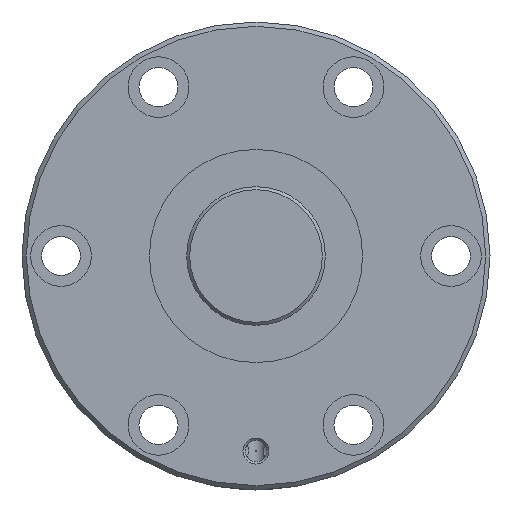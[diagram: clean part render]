
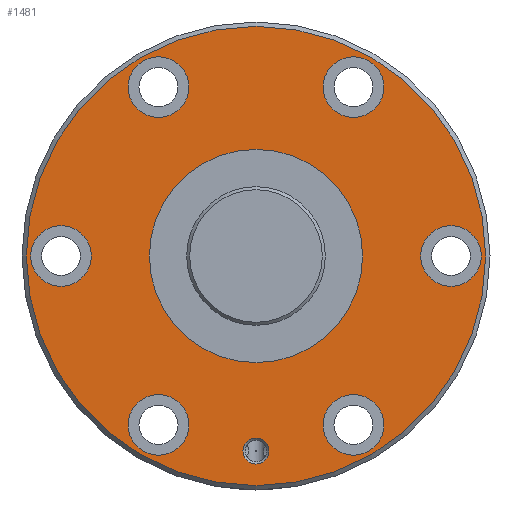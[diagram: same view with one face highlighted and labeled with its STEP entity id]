
A CAD part, left-side view. The second image highlights one B-rep face of the part: STEP entity #1481.
In plain terms, the highlighted planar face has unit normal (-1, 0, 0).
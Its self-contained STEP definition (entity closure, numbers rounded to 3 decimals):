
#336=ORIENTED_EDGE('',*,*,#707,.T.);
#337=ORIENTED_EDGE('',*,*,#708,.T.);
#338=ORIENTED_EDGE('',*,*,#709,.T.);
#339=ORIENTED_EDGE('',*,*,#710,.T.);
#340=ORIENTED_EDGE('',*,*,#711,.T.);
#341=ORIENTED_EDGE('',*,*,#712,.T.);
#342=ORIENTED_EDGE('',*,*,#713,.T.);
#343=ORIENTED_EDGE('',*,*,#714,.T.);
#344=ORIENTED_EDGE('',*,*,#706,.F.);
#706=EDGE_CURVE('',#891,#891,#976,.T.);
#707=EDGE_CURVE('',#892,#892,#977,.T.);
#708=EDGE_CURVE('',#893,#893,#978,.F.);
#709=EDGE_CURVE('',#894,#894,#979,.T.);
#710=EDGE_CURVE('',#895,#895,#980,.T.);
#711=EDGE_CURVE('',#896,#896,#981,.T.);
#712=EDGE_CURVE('',#897,#897,#982,.T.);
#713=EDGE_CURVE('',#898,#898,#983,.T.);
#714=EDGE_CURVE('',#899,#899,#984,.T.);
#891=VERTEX_POINT('',#2712);
#892=VERTEX_POINT('',#2715);
#893=VERTEX_POINT('',#2717);
#894=VERTEX_POINT('',#2719);
#895=VERTEX_POINT('',#2721);
#896=VERTEX_POINT('',#2723);
#897=VERTEX_POINT('',#2725);
#898=VERTEX_POINT('',#2727);
#899=VERTEX_POINT('',#2729);
#976=CIRCLE('',#1640,53.);
#977=CIRCLE('',#1642,24.6);
#978=CIRCLE('',#1643,7.);
#979=CIRCLE('',#1644,3.);
#980=CIRCLE('',#1645,7.);
#981=CIRCLE('',#1646,7.);
#982=CIRCLE('',#1647,7.);
#983=CIRCLE('',#1648,7.);
#984=CIRCLE('',#1649,7.);
#1092=EDGE_LOOP('',(#336));
#1093=EDGE_LOOP('',(#337));
#1094=EDGE_LOOP('',(#338));
#1095=EDGE_LOOP('',(#339));
#1096=EDGE_LOOP('',(#340));
#1097=EDGE_LOOP('',(#341));
#1098=EDGE_LOOP('',(#342));
#1099=EDGE_LOOP('',(#343));
#1100=EDGE_LOOP('',(#344));
#1266=FACE_BOUND('',#1092,.T.);
#1267=FACE_BOUND('',#1093,.T.);
#1268=FACE_BOUND('',#1094,.T.);
#1269=FACE_BOUND('',#1095,.T.);
#1270=FACE_BOUND('',#1096,.T.);
#1271=FACE_BOUND('',#1097,.T.);
#1272=FACE_BOUND('',#1098,.T.);
#1273=FACE_BOUND('',#1099,.T.);
#1274=FACE_BOUND('',#1100,.T.);
#1420=PLANE('',#1641);
#1481=ADVANCED_FACE('',(#1266,#1267,#1268,#1269,#1270,#1271,#1272,#1273,
#1274),#1420,.T.);
#1640=AXIS2_PLACEMENT_3D('',#2711,#1966,#1967);
#1641=AXIS2_PLACEMENT_3D('',#2713,#1968,#1969);
#1642=AXIS2_PLACEMENT_3D('',#2714,#1970,#1971);
#1643=AXIS2_PLACEMENT_3D('',#2716,#1972,#1973);
#1644=AXIS2_PLACEMENT_3D('',#2718,#1974,#1975);
#1645=AXIS2_PLACEMENT_3D('',#2720,#1976,#1977);
#1646=AXIS2_PLACEMENT_3D('',#2722,#1978,#1979);
#1647=AXIS2_PLACEMENT_3D('',#2724,#1980,#1981);
#1648=AXIS2_PLACEMENT_3D('',#2726,#1982,#1983);
#1649=AXIS2_PLACEMENT_3D('',#2728,#1984,#1985);
#1966=DIRECTION('',(1.,0.,0.));
#1967=DIRECTION('',(0.,0.,-1.));
#1968=DIRECTION('',(-1.,0.,0.));
#1969=DIRECTION('',(0.,0.,1.));
#1970=DIRECTION('',(1.,0.,0.));
#1971=DIRECTION('',(0.,0.,-1.));
#1972=DIRECTION('',(-1.,0.,0.));
#1973=DIRECTION('',(0.,0.,1.));
#1974=DIRECTION('',(1.,0.,0.));
#1975=DIRECTION('',(0.,0.,-1.));
#1976=DIRECTION('',(1.,0.,0.));
#1977=DIRECTION('',(0.,0.,-1.));
#1978=DIRECTION('',(1.,0.,0.));
#1979=DIRECTION('',(0.,0.,-1.));
#1980=DIRECTION('',(1.,0.,0.));
#1981=DIRECTION('',(0.,0.,-1.));
#1982=DIRECTION('',(1.,0.,0.));
#1983=DIRECTION('',(0.,0.,-1.));
#1984=DIRECTION('',(1.,0.,0.));
#1985=DIRECTION('',(0.,0.,-1.));
#2711=CARTESIAN_POINT('',(0.,0.,0.));
#2712=CARTESIAN_POINT('',(0.,0.,-53.));
#2713=CARTESIAN_POINT('',(0.,53.,0.));
#2714=CARTESIAN_POINT('',(0.,0.,0.));
#2715=CARTESIAN_POINT('',(0.,0.,-24.6));
#2716=CARTESIAN_POINT('',(0.,45.,0.));
#2717=CARTESIAN_POINT('',(0.,45.,7.));
#2718=CARTESIAN_POINT('',(0.,0.,-45.));
#2719=CARTESIAN_POINT('',(0.,0.,-48.));
#2720=CARTESIAN_POINT('',(0.,22.5,38.971));
#2721=CARTESIAN_POINT('',(0.,22.5,31.971));
#2722=CARTESIAN_POINT('',(0.,-22.5,-38.971));
#2723=CARTESIAN_POINT('',(0.,-22.5,-45.971));
#2724=CARTESIAN_POINT('',(0.,-22.5,38.971));
#2725=CARTESIAN_POINT('',(0.,-22.5,31.971));
#2726=CARTESIAN_POINT('',(0.,22.5,-38.971));
#2727=CARTESIAN_POINT('',(0.,22.5,-45.971));
#2728=CARTESIAN_POINT('',(0.,-45.,0.));
#2729=CARTESIAN_POINT('',(0.,-45.,-7.));
